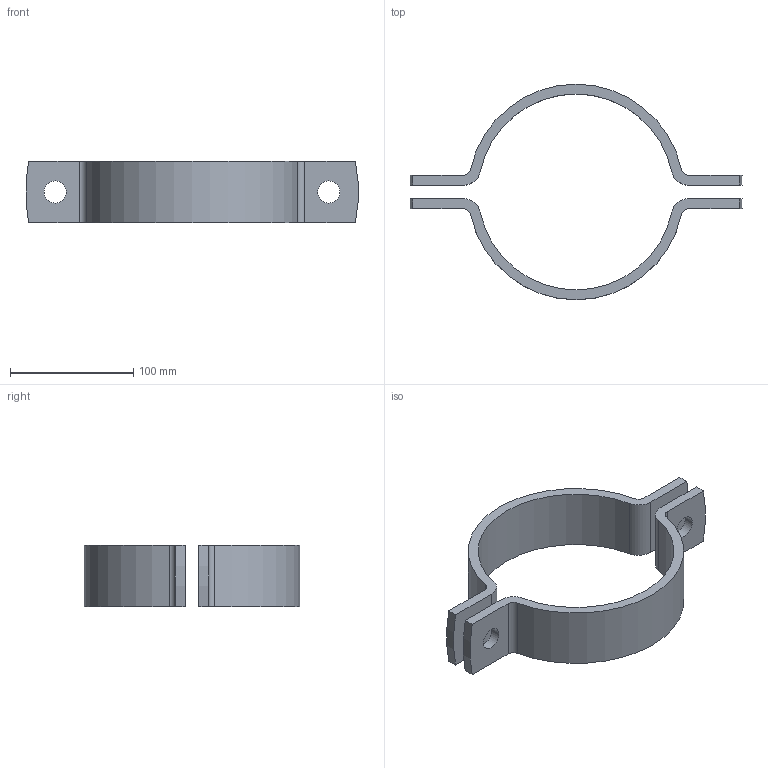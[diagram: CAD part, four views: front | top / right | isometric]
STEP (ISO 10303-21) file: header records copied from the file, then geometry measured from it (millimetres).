
FILE_DESCRIPTION (( 'STEP AP203' ), '1' );
FILE_NAME ('NW150-159 (DIN 3567).STEP', '2023-12-08T11:34:20', ( '' ), ( '' ), 'SwSTEP 2.0', 'SolidWorks 2023', '' );
FILE_SCHEMA (( 'CONFIG_CONTROL_DESIGN' ));
Length unit declared in the file: millimetre
Products named in the file (1): NW150-159 (DIN 3567)
Bounding box: 269.48 x 175 x 50 mm (x, y, z)
Volume: 263866 mm3; surface area: 80165.9 mm2
Topology: 2 solids, 2 shells, 36 faces, 96 edges, 64 vertices
Faces by surface type: cylinder 24, plane 12
Entity records: 1239 total; most frequent: DIRECTION 218, CARTESIAN_POINT 197, ORIENTED_EDGE 192, EDGE_CURVE 96, AXIS2_PLACEMENT_3D 85, VERTEX_POINT 64, VECTOR 48, LINE 48
